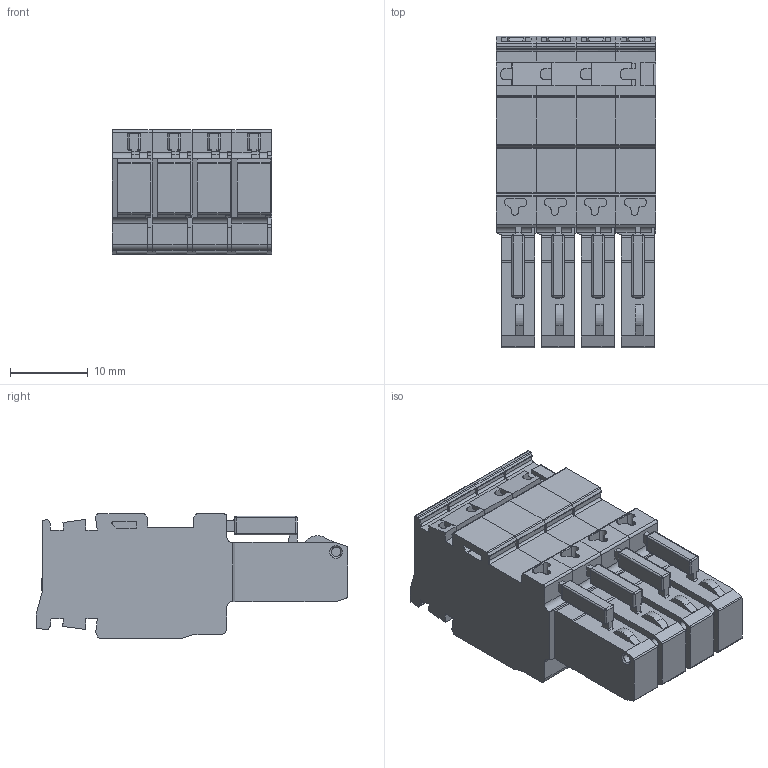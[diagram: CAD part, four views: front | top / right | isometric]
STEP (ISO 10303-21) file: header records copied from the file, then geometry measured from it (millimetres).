
FILE_DESCRIPTION (( 'STEP AP214' ), '1' );
FILE_NAME ('V01.TPA.08.0188.00.00.0.STEP', '2025-09-17T10:06:14', ( '' ), ( '' ), 'SwSTEP 2.0', 'SolidWorks 2022', '' );
FILE_SCHEMA (( 'AUTOMOTIVE_DESIGN' ));
Length unit declared in the file: millimetre
Products named in the file (3): V01.TPA.08.0185.00.00.0_VPR-P-2.5-M-R; V01.TPA.08.0185.00.00.0_VPR-P-2.5-1; V01.TPA.08.0188.00.00.0
Assembly tree (4 placements, depth 2):
  V01.TPA.08.0188.00.00.0
    V01.TPA.08.0185.00.00.0_VPR-P-2.5-1
    V01.TPA.08.0185.00.00.0_VPR-P-2.5-M-R  x3
Bounding box: 20.6 x 40.17 x 16 mm (x, y, z)
Volume: 7938.7 mm3; surface area: 11120.3 mm2
Topology: 4 solids, 4 shells, 2062 faces, 5741 edges, 3731 vertices
Faces by surface type: plane 1322, cylinder 636, cone 44, sphere 32, bspline 28
Full cylindrical faces by diameter (mm): 0.6 x12, 1 x4, 1.1 x9, 1.2 x4, 1.3 x3, 1.5 x4, 1.52 x3, 1.532 x8, 1.693 x12, 2 x4
Entity records: 31325 total; most frequent: CARTESIAN_POINT 5818, ORIENTED_EDGE 5240, DIRECTION 5061, EDGE_CURVE 2620, VECTOR 1929, LINE 1929, VERTEX_POINT 1739, AXIS2_PLACEMENT_3D 1566
